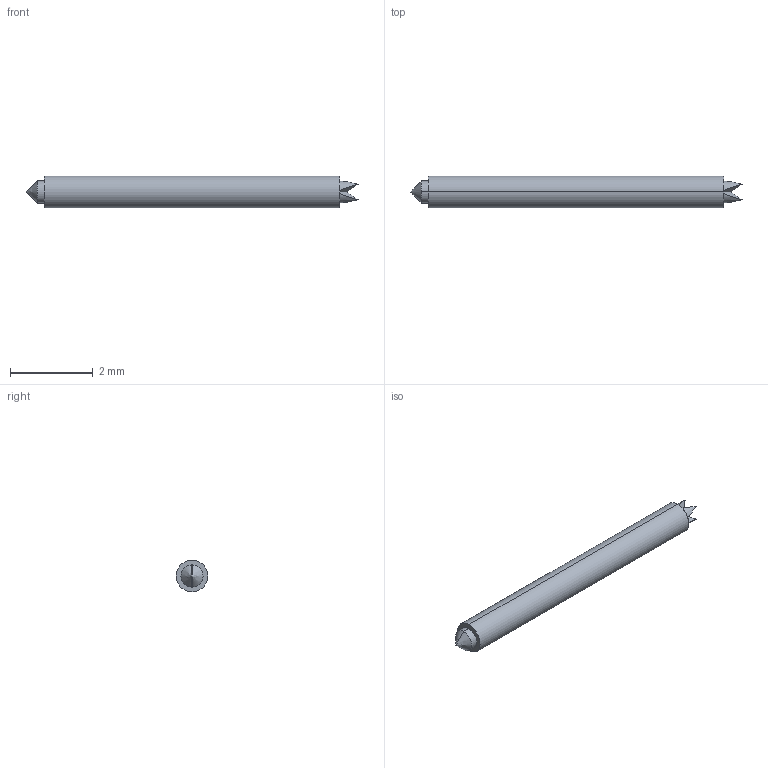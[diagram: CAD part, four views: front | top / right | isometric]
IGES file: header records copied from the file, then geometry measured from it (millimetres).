
Start section: SolidWorks IGES file using analytic representation for surfaces
Global section: file name: Z:\probe solid model mockups\Solidworks models\IGES Files\CSP1-1.27 IGES files\CSP1-1.27LB RECD.IGS; native system: SolidWorks 2006 by SolidWorks Corporation; preprocessor: SolidWorks 2006 by SolidWorks Corporation; author: tsakatani; date: 080108.155454; units: inch
Bounding box: 8 x 0.76 x 0.76 mm (x, y, z)
Surface area: 19.1 mm2 (no closed solid volume)
Topology: 0 solids, 0 shells, 25 faces, 168 edges, 166 vertices
Faces by surface type: revolution 15, bspline 10
